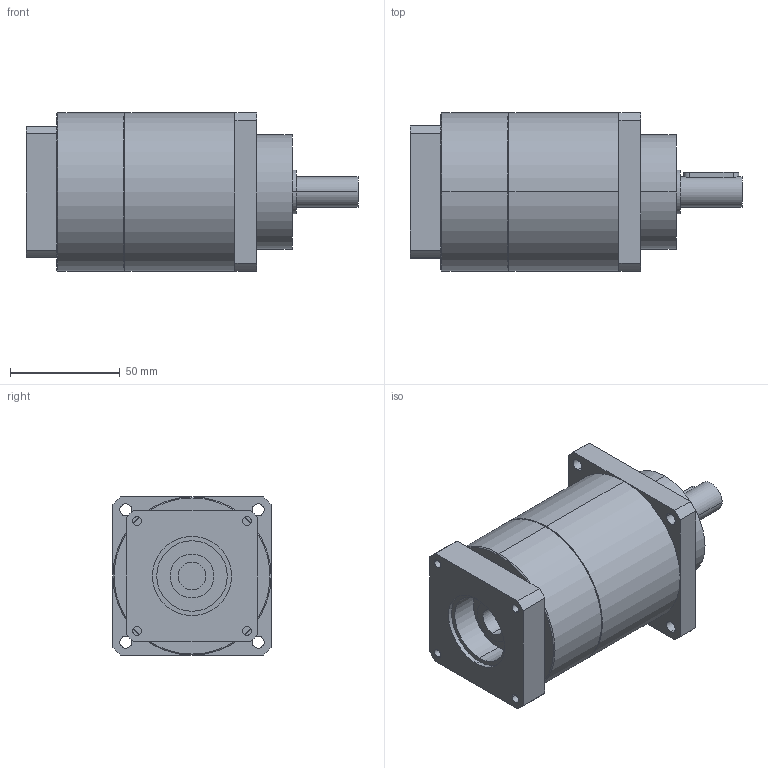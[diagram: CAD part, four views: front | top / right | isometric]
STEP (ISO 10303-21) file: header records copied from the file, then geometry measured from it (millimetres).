
FILE_DESCRIPTION(('CoCreate Modeling STEP Export'),'2;1');
FILE_NAME('GPT75_ig-9-12-16-20-25-28-35-40-50-70-100_14_B5T_12.7_P35.stp','2014-08-27T13:36:16',(''),(''),'CoCreate Modeling STEP processor for AP214 (Solid Model)','CoCreate Modeling 16.00C 25-Feb-2009 (C) Parametric Technology GmbH','');
FILE_SCHEMA(('AUTOMOTIVE_DESIGN { 1 0 10303 214 1 1 1 1 }'));
Length unit declared in the file: millimetre
Products named in the file (2): GPT75_ig-9-12-16-20-25-28-35-40-50-70-100_14_B5T_12.7_P35
Assembly tree (1 placements, depth 2):
  GPT75_ig-9-12-16-20-25-28-35-40-50-70-100_14_B5T_12.7_P35
    GPT75_ig-9-12-16-20-25-28-35-40-50-70-100_14_B5T_12.7_P35
Bounding box: 151 x 72 x 72 mm (x, y, z)
Volume: 454046.4 mm3; surface area: 43519.6 mm2
Topology: 1 solids, 1 shells, 88 faces, 226 edges, 145 vertices
Faces by surface type: cylinder 46, plane 38, cone 4
Entity records: 2676 total; most frequent: CARTESIAN_POINT 744, ORIENTED_EDGE 452, DIRECTION 334, EDGE_CURVE 226, VERTEX_POINT 145, AXIS2_PLACEMENT_3D 123, EDGE_LOOP 109, VECTOR 88
